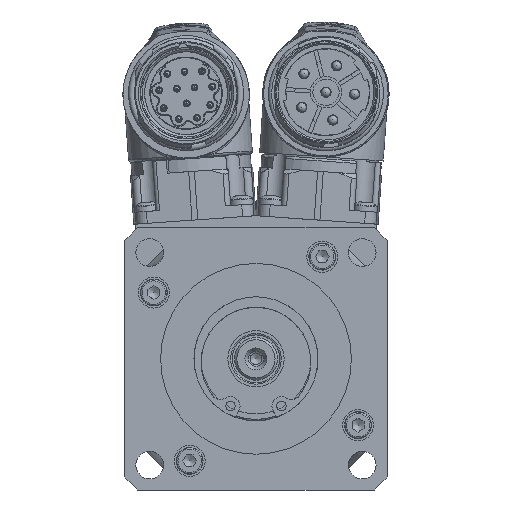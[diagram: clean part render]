
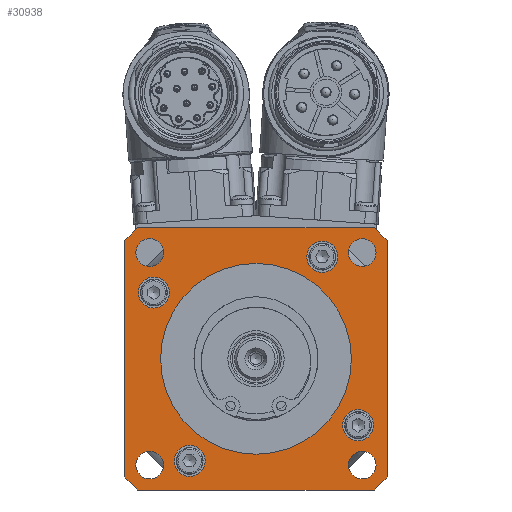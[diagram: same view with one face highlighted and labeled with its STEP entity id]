
A CAD part, left-side view. The second image highlights one B-rep face of the part: STEP entity #30938.
In plain terms, the highlighted planar face has unit normal (-1, 0, 0).
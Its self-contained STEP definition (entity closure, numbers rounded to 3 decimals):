
#1415=FACE_BOUND('',#3975,.T.);
#1416=FACE_BOUND('',#3976,.T.);
#1417=FACE_BOUND('',#3977,.T.);
#1418=FACE_BOUND('',#3978,.T.);
#1419=FACE_BOUND('',#3979,.T.);
#1420=FACE_BOUND('',#3980,.T.);
#1421=FACE_BOUND('',#3981,.T.);
#1422=FACE_BOUND('',#3982,.T.);
#1423=FACE_BOUND('',#3983,.T.);
#1660=PLANE('',#33124);
#2210=FACE_OUTER_BOUND('',#3974,.T.);
#3974=EDGE_LOOP('',(#19551,#19552,#19553,#19554,#19555,#19556,#19557,#19558));
#3975=EDGE_LOOP('',(#19559));
#3976=EDGE_LOOP('',(#19560));
#3977=EDGE_LOOP('',(#19561));
#3978=EDGE_LOOP('',(#19562));
#3979=EDGE_LOOP('',(#19563));
#3980=EDGE_LOOP('',(#19564));
#3981=EDGE_LOOP('',(#19565));
#3982=EDGE_LOOP('',(#19566));
#3983=EDGE_LOOP('',(#19567,#19568));
#6136=CIRCLE('',#33122,20.);
#6137=CIRCLE('',#33123,20.);
#6138=CIRCLE('',#33125,37.);
#6139=CIRCLE('',#33126,37.);
#6140=CIRCLE('',#33127,37.);
#6141=CIRCLE('',#33128,37.);
#6142=CIRCLE('',#33129,3.25);
#6143=CIRCLE('',#33130,3.25);
#6144=CIRCLE('',#33131,3.25);
#6145=CIRCLE('',#33132,3.25);
#6146=CIRCLE('',#33133,2.9);
#6147=CIRCLE('',#33134,2.9);
#6148=CIRCLE('',#33135,2.9);
#6149=CIRCLE('',#33136,2.9);
#8183=LINE('',#46474,#9775);
#8184=LINE('',#46478,#9776);
#8185=LINE('',#46482,#9777);
#8186=LINE('',#46486,#9778);
#9775=VECTOR('',#37299,10.);
#9776=VECTOR('',#37302,10.);
#9777=VECTOR('',#37305,10.);
#9778=VECTOR('',#37308,10.);
#11468=VERTEX_POINT('',#46466);
#11469=VERTEX_POINT('',#46467);
#11470=VERTEX_POINT('',#46472);
#11471=VERTEX_POINT('',#46473);
#11472=VERTEX_POINT('',#46475);
#11473=VERTEX_POINT('',#46477);
#11474=VERTEX_POINT('',#46479);
#11475=VERTEX_POINT('',#46481);
#11476=VERTEX_POINT('',#46483);
#11477=VERTEX_POINT('',#46485);
#11478=VERTEX_POINT('',#46488);
#11479=VERTEX_POINT('',#46490);
#11480=VERTEX_POINT('',#46492);
#11481=VERTEX_POINT('',#46494);
#11482=VERTEX_POINT('',#46496);
#11483=VERTEX_POINT('',#46498);
#11484=VERTEX_POINT('',#46500);
#11485=VERTEX_POINT('',#46502);
#14597=EDGE_CURVE('',#11468,#11469,#6136,.T.);
#14599=EDGE_CURVE('',#11469,#11468,#6137,.T.);
#14600=EDGE_CURVE('',#11470,#11471,#8183,.T.);
#14601=EDGE_CURVE('',#11472,#11470,#6138,.T.);
#14602=EDGE_CURVE('',#11473,#11472,#8184,.T.);
#14603=EDGE_CURVE('',#11474,#11473,#6139,.T.);
#14604=EDGE_CURVE('',#11475,#11474,#8185,.T.);
#14605=EDGE_CURVE('',#11476,#11475,#6140,.T.);
#14606=EDGE_CURVE('',#11477,#11476,#8186,.T.);
#14607=EDGE_CURVE('',#11471,#11477,#6141,.T.);
#14608=EDGE_CURVE('',#11478,#11478,#6142,.T.);
#14609=EDGE_CURVE('',#11479,#11479,#6143,.T.);
#14610=EDGE_CURVE('',#11480,#11480,#6144,.T.);
#14611=EDGE_CURVE('',#11481,#11481,#6145,.T.);
#14612=EDGE_CURVE('',#11482,#11482,#6146,.T.);
#14613=EDGE_CURVE('',#11483,#11483,#6147,.T.);
#14614=EDGE_CURVE('',#11484,#11484,#6148,.T.);
#14615=EDGE_CURVE('',#11485,#11485,#6149,.T.);
#19551=ORIENTED_EDGE('',*,*,#14600,.F.);
#19552=ORIENTED_EDGE('',*,*,#14601,.F.);
#19553=ORIENTED_EDGE('',*,*,#14602,.F.);
#19554=ORIENTED_EDGE('',*,*,#14603,.F.);
#19555=ORIENTED_EDGE('',*,*,#14604,.F.);
#19556=ORIENTED_EDGE('',*,*,#14605,.F.);
#19557=ORIENTED_EDGE('',*,*,#14606,.F.);
#19558=ORIENTED_EDGE('',*,*,#14607,.F.);
#19559=ORIENTED_EDGE('',*,*,#14608,.F.);
#19560=ORIENTED_EDGE('',*,*,#14609,.F.);
#19561=ORIENTED_EDGE('',*,*,#14610,.F.);
#19562=ORIENTED_EDGE('',*,*,#14611,.F.);
#19563=ORIENTED_EDGE('',*,*,#14612,.F.);
#19564=ORIENTED_EDGE('',*,*,#14613,.F.);
#19565=ORIENTED_EDGE('',*,*,#14614,.F.);
#19566=ORIENTED_EDGE('',*,*,#14615,.F.);
#19567=ORIENTED_EDGE('',*,*,#14597,.F.);
#19568=ORIENTED_EDGE('',*,*,#14599,.F.);
#30938=ADVANCED_FACE('',(#2210,#1415,#1416,#1417,#1418,#1419,#1420,#1421,
#1422,#1423),#1660,.F.);
#33122=AXIS2_PLACEMENT_3D('',#46468,#37292,#37293);
#33123=AXIS2_PLACEMENT_3D('',#46470,#37295,#37296);
#33124=AXIS2_PLACEMENT_3D('',#46471,#37297,#37298);
#33125=AXIS2_PLACEMENT_3D('',#46476,#37300,#37301);
#33126=AXIS2_PLACEMENT_3D('',#46480,#37303,#37304);
#33127=AXIS2_PLACEMENT_3D('',#46484,#37306,#37307);
#33128=AXIS2_PLACEMENT_3D('',#46487,#37309,#37310);
#33129=AXIS2_PLACEMENT_3D('',#46489,#37311,#37312);
#33130=AXIS2_PLACEMENT_3D('',#46491,#37313,#37314);
#33131=AXIS2_PLACEMENT_3D('',#46493,#37315,#37316);
#33132=AXIS2_PLACEMENT_3D('',#46495,#37317,#37318);
#33133=AXIS2_PLACEMENT_3D('',#46497,#37319,#37320);
#33134=AXIS2_PLACEMENT_3D('',#46499,#37321,#37322);
#33135=AXIS2_PLACEMENT_3D('',#46501,#37323,#37324);
#33136=AXIS2_PLACEMENT_3D('',#46503,#37325,#37326);
#37292=DIRECTION('center_axis',(-1.,0.,0.));
#37293=DIRECTION('ref_axis',(0.,0.,
1.));
#37295=DIRECTION('center_axis',(-1.,0.,0.));
#37296=DIRECTION('ref_axis',(0.,0.,
1.));
#37297=DIRECTION('center_axis',(1.,0.,0.));
#37298=DIRECTION('ref_axis',(0.,0.,
-1.));
#37299=DIRECTION('',(0.,-1.,0.));
#37300=DIRECTION('center_axis',(1.,0.,0.));
#37301=DIRECTION('ref_axis',(0.,0.,
1.));
#37302=DIRECTION('',(0.,0.,1.));
#37303=DIRECTION('center_axis',(1.,0.,0.));
#37304=DIRECTION('ref_axis',(0.,0.,
1.));
#37305=DIRECTION('',(0.,1.,0.));
#37306=DIRECTION('center_axis',(1.,0.,0.));
#37307=DIRECTION('ref_axis',(0.,0.,
1.));
#37308=DIRECTION('',(0.,0.,-1.));
#37309=DIRECTION('center_axis',(1.,0.,0.));
#37310=DIRECTION('ref_axis',(0.,0.,
1.));
#37311=DIRECTION('center_axis',(-1.,0.,0.));
#37312=DIRECTION('ref_axis',(0.,0.,
1.));
#37313=DIRECTION('center_axis',(-1.,0.,0.));
#37314=DIRECTION('ref_axis',(0.,1.,0.));
#37315=DIRECTION('center_axis',(-1.,0.,0.));
#37316=DIRECTION('ref_axis',(0.,0.,
-1.));
#37317=DIRECTION('center_axis',(-1.,0.,0.));
#37318=DIRECTION('ref_axis',(0.,-1.,0.));
#37319=DIRECTION('center_axis',(-1.,0.,0.));
#37320=DIRECTION('ref_axis',(0.,0.,
1.));
#37321=DIRECTION('center_axis',(-1.,0.,0.));
#37322=DIRECTION('ref_axis',(0.,1.,0.));
#37323=DIRECTION('center_axis',(-1.,0.,0.));
#37324=DIRECTION('ref_axis',(0.,0.,
-1.));
#37325=DIRECTION('center_axis',(-1.,0.,0.));
#37326=DIRECTION('ref_axis',(0.,-1.,0.));
#46466=CARTESIAN_POINT('',(-24.75,0.,20.));
#46467=CARTESIAN_POINT('',(-24.75,0.,-20.));
#46468=CARTESIAN_POINT('Origin',(-24.75,0.,0.));
#46470=CARTESIAN_POINT('Origin',(-24.75,0.,0.));
#46471=CARTESIAN_POINT('Origin',(-24.75,0.,49.909));
#46472=CARTESIAN_POINT('',(-24.75,24.754,27.5));
#46473=CARTESIAN_POINT('',(-24.75,-24.754,27.5));
#46474=CARTESIAN_POINT('',(-24.75,13.75,27.5));
#46475=CARTESIAN_POINT('',(-24.75,27.5,24.754));
#46476=CARTESIAN_POINT('Origin',(-24.75,0.,0.));
#46477=CARTESIAN_POINT('',(-24.75,27.5,-24.754));
#46478=CARTESIAN_POINT('',(-24.75,27.5,11.204));
#46479=CARTESIAN_POINT('',(-24.75,24.754,-27.5));
#46480=CARTESIAN_POINT('Origin',(-24.75,0.,0.));
#46481=CARTESIAN_POINT('',(-24.75,-24.754,-27.5));
#46482=CARTESIAN_POINT('',(-24.75,-13.75,-27.5));
#46483=CARTESIAN_POINT('',(-24.75,-27.5,-24.754));
#46484=CARTESIAN_POINT('Origin',(-24.75,0.,0.));
#46485=CARTESIAN_POINT('',(-24.75,-27.5,24.754));
#46486=CARTESIAN_POINT('',(-24.75,-27.5,38.704));
#46487=CARTESIAN_POINT('Origin',(-24.75,0.,0.));
#46488=CARTESIAN_POINT('',(-24.75,21.4,10.65));
#46489=CARTESIAN_POINT('Origin',(-24.75,21.4,13.9));
#46490=CARTESIAN_POINT('',(-24.75,10.65,-21.4));
#46491=CARTESIAN_POINT('Origin',(-24.75,13.9,-21.4));
#46492=CARTESIAN_POINT('',(-24.75,-21.4,-10.65));
#46493=CARTESIAN_POINT('Origin',(-24.75,-21.4,-13.9));
#46494=CARTESIAN_POINT('',(-24.75,-10.65,21.4));
#46495=CARTESIAN_POINT('Origin',(-24.75,-13.9,21.4));
#46496=CARTESIAN_POINT('',(-24.75,22.274,-25.174));
#46497=CARTESIAN_POINT('Origin',(-24.75,22.274,-22.274));
#46498=CARTESIAN_POINT('',(-24.75,-25.174,-22.274));
#46499=CARTESIAN_POINT('Origin',(-24.75,-22.274,-22.274));
#46500=CARTESIAN_POINT('',(-24.75,-22.274,25.174));
#46501=CARTESIAN_POINT('Origin',(-24.75,-22.274,22.274));
#46502=CARTESIAN_POINT('',(-24.75,25.174,22.274));
#46503=CARTESIAN_POINT('Origin',(-24.75,22.274,22.274));
